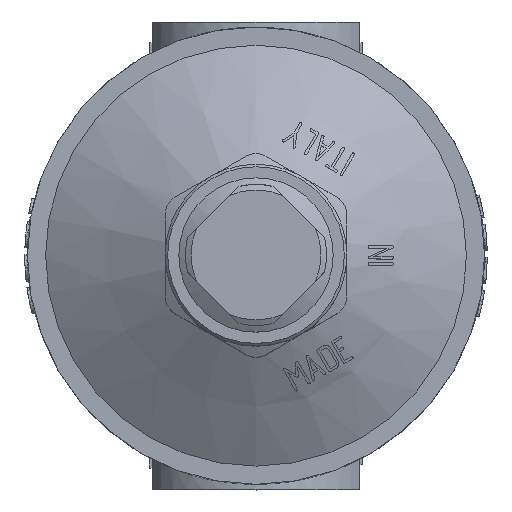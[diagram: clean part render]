
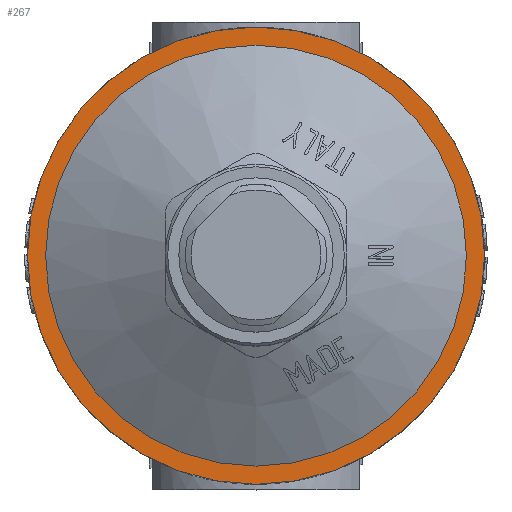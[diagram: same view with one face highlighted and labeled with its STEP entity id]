
A CAD part, top view. The second image highlights one B-rep face of the part: STEP entity #267.
In plain terms, the highlighted planar face has unit normal (0, 0, 1).
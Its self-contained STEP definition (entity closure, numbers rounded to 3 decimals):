
#267=ADVANCED_FACE('',(#2159,#2161),#2163,.T.);
#2159=FACE_BOUND('',#2160,.T.);
#2160=EDGE_LOOP('',(#7216));
#2161=FACE_BOUND('',#2162,.T.);
#2162=EDGE_LOOP('',(#7217));
#2163=PLANE('',#2164);
#2164=AXIS2_PLACEMENT_3D('',#2165,#2166,#2167);
#2165=CARTESIAN_POINT('',(0.,0.,32.));
#2166=DIRECTION('',(0.,0.,1.));
#2167=DIRECTION('',(1.,0.,0.));
#7216=ORIENTED_EDGE('',*,*,#10874,.T.);
#7217=ORIENTED_EDGE('',*,*,#10271,.F.);
#10271=EDGE_CURVE('',#12100,#12100,#12101,.T.);
#10874=EDGE_CURVE('',#13099,#13099,#13100,.T.);
#12100=VERTEX_POINT('',#15809);
#12101=CIRCLE('',#15810,40.5);
#13099=VERTEX_POINT('',#21947);
#13100=CIRCLE('',#21948,44.);
#15809=CARTESIAN_POINT('',(0.,40.5,32.));
#15810=AXIS2_PLACEMENT_3D('',#15811,#15812,#15813);
#15811=CARTESIAN_POINT('',(0.,0.,32.));
#15812=DIRECTION('',(0.,0.,1.));
#15813=DIRECTION('',(0.,1.,0.));
#21947=CARTESIAN_POINT('',(44.,0.,32.));
#21948=AXIS2_PLACEMENT_3D('',#21949,#21950,#21951);
#21949=CARTESIAN_POINT('',(0.,0.,32.));
#21950=DIRECTION('',(0.,0.,1.));
#21951=DIRECTION('',(1.,0.,0.));
